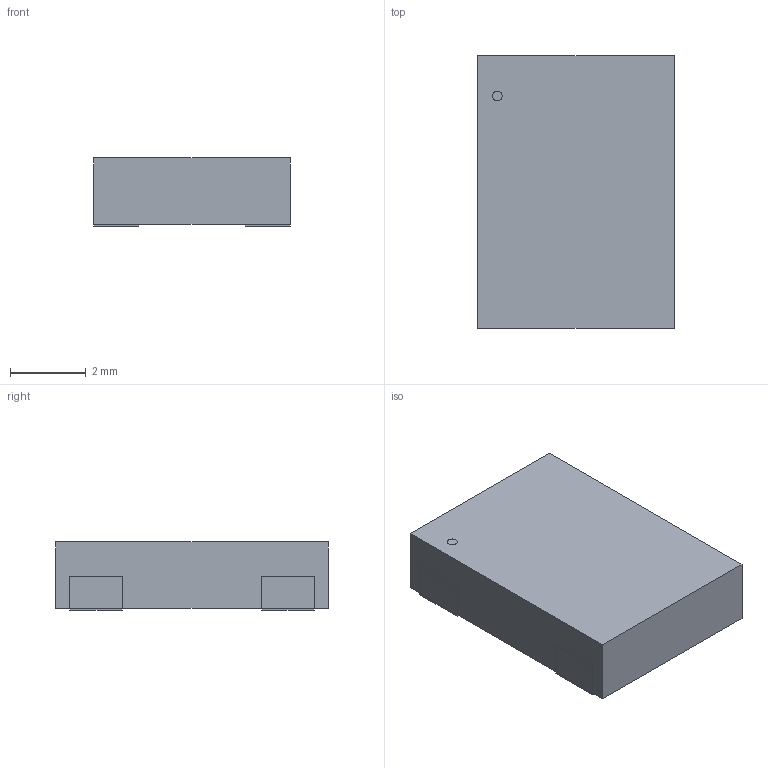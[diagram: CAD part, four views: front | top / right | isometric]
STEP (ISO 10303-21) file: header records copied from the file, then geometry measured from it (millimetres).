
FILE_DESCRIPTION(('STEP AP214'),'1');
FILE_NAME('CRYS_CB3LV-3I-14M7456_CTS','2024-04-22T04:25:14',(''),(''),'','','');
FILE_SCHEMA(('AUTOMOTIVE_DESIGN'));
Length unit declared in the file: millimetre
Products named in the file (1): product
Bounding box: 5.21 x 7.21 x 1.81 mm (x, y, z)
Volume: 66.2 mm3; surface area: 142.7 mm2
Topology: 6 solids, 6 shells, 41 faces, 79 edges, 50 vertices
Faces by surface type: plane 40, cylinder 1
Full cylindrical faces by diameter (mm): 0.26 x1
Entity records: 1197 total; most frequent: DIRECTION 174, ORIENTED_EDGE 172, CARTESIAN_POINT 103, EDGE_CURVE 86, LINE 84, VECTOR 84, VERTEX_POINT 58, AXIS2_PLACEMENT_3D 45
